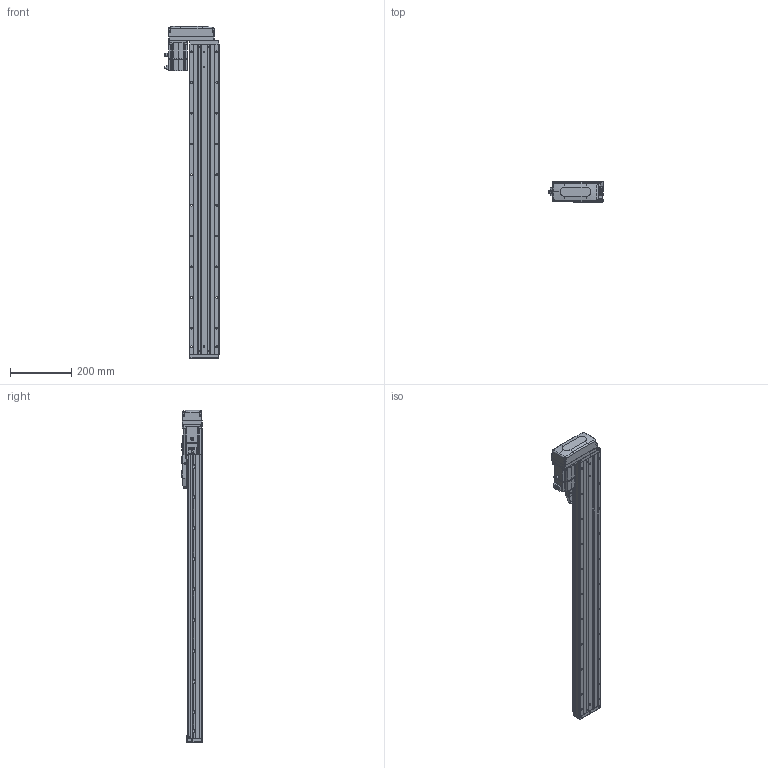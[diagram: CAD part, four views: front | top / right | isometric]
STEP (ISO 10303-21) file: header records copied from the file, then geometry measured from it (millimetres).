
FILE_DESCRIPTION (( 'STEP AP203' ), '1' );
FILE_NAME ('CTHA100-800-BL-M20-C4L.step', '2022-07-06T09:10:05', ( '微软用户' ), ( '微软中国' ), 'SwSTEP 2.0', 'SolidWorks 2020', '' );
FILE_SCHEMA (( 'CONFIG_CONTROL_DESIGN' ));
Length unit declared in the file: millimetre
Products named in the file (19): EE_SX911P_R; _X2_4E0983F1_X0_200W_1; CTHA100-800-BL-M20-C4L; CTHA60-017; CTHA100-002; CTHA86-033; CTHA60-021; CTHA100-031; KTHA100-001_1010; GBT77-2000 M3×3; CTHA86-030; KTHA100-004; GBT 70.1-M3℅6; GBT 70.3-M3℅6; KTHA100-005; GBT70.1 M5℅16; CTHA86-015-1_CTHA86-015-2; GB¨uT 70.2-M3¡Á5_M3¡Á6; CTHA60-016
Assembly tree (64 placements, depth 2):
  CTHA100-800-BL-M20-C4L
    KTHA100-001_1010
    KTHA100-004
    KTHA100-005
    GB¨uT 70.2-M3¡Á5_M3¡Á6  x10
    EE_SX911P_R  x3
    CTHA60-017  x3
    CTHA60-021  x2
    GBT77-2000 M3×3  x6
    GBT 70.1-M3℅6  x10
    GBT70.1 M5℅16  x14
    CTHA60-016  x2
    _X2_4E0983F1_X0_200W_1
    CTHA100-002
    CTHA100-031
    CTHA86-030  x2
    GBT 70.3-M3℅6  x4
    CTHA86-015-1_CTHA86-015-2
    CTHA86-033
Bounding box: 178.52 x 68 x 1081 mm (x, y, z)
Volume: 4413842.3 mm3; surface area: 737581.2 mm2
Topology: 66 solids, 66 shells, 2729 faces, 6583 edges, 4084 vertices
Faces by surface type: plane 1428, cylinder 719, cone 359, torus 124, bspline 75, sphere 24
Entity records: 47930 total; most frequent: CARTESIAN_POINT 9371, DIRECTION 7424, ORIENTED_EDGE 7282, EDGE_CURVE 3641, AXIS2_PLACEMENT_3D 2509, VECTOR 2406, LINE 2406, VERTEX_POINT 2304
